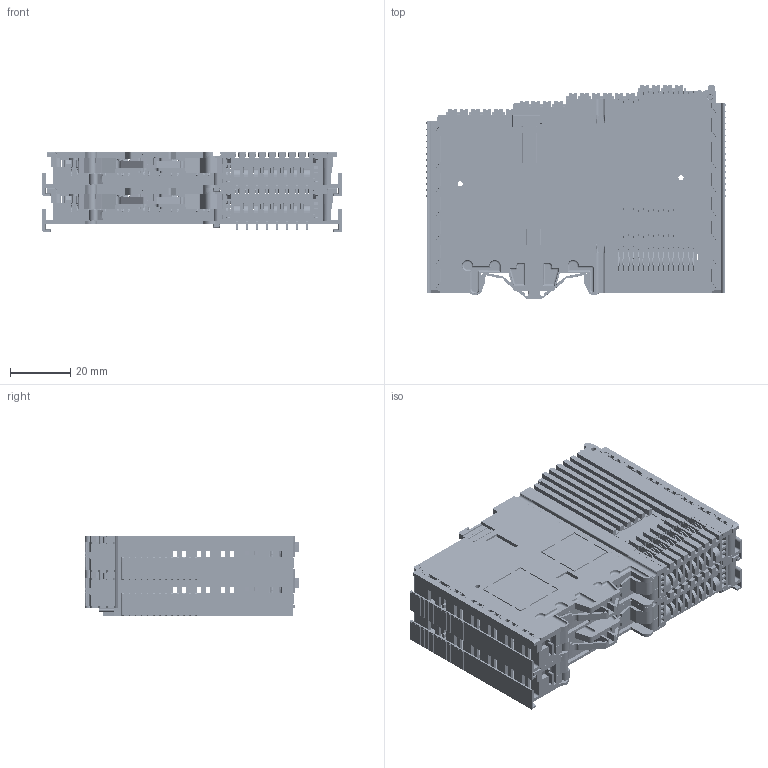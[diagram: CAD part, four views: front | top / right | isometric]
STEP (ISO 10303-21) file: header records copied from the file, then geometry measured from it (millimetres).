
FILE_DESCRIPTION((''),'2;1');
FILE_NAME('MUKUAI_2_ASM','2023-10-11T19:14:20',('wmy'),(''),'CREO PARAMETRIC BY PTC INC, 2021063','CREO PARAMETRIC BY PTC INC, 2021063','');
FILE_SCHEMA(('CONFIG_CONTROL_DESIGN','SHAPE_APPEARANCE_LAYERS_GROUPS'));
Products named in the file (37): YOUGAIBAN230227; PCB; ZUOGAIBAN230227; SM23008-R2; 0009; 0006; 00; 4P000; 0014; 2023041800; _64200001_ASM; _83320001_ASM; _100970001_ASM; _53460001_ASM; KMK-381-04_1000_ASM; _175460001_ASM; _339700001_ASM; 6P000; _211250001_ASM; _163870001_ASM; _49350001_ASM; _86430001_ASM; KMK-381-06_1000_ASM; 2P-0001; 2P-0002; 2P000; 2P000_ASM; _10002; _10003; _10004; _10005; _10001_ASM; ASM0001_ASM; IO00_ASM; MUKUAI_2_ASM
Assembly tree (80 placements, depth 5):
  MUKUAI_2_ASM
    IO00_ASM  x2
      YOUGAIBAN230227
      PCB
      ZUOGAIBAN230227
      SM23008-R2
      0009
      0006
      KMK-381-04_1000_ASM
        00  x4
        4P000
        _64200001_ASM
          0014
          2023041800
        4P000
        _83320001_ASM
          0014
          2023041800
        _100970001_ASM
          2023041800
          0014
        _53460001_ASM
          2023041800
          0014
      KMK-381-06_1000_ASM
        00  x6
        _175460001_ASM
          0014
          2023041800
        _339700001_ASM
          0014
          2023041800
        6P000
        _211250001_ASM
          2023041800
          0014
        _163870001_ASM
          2023041800
          0014
        _49350001_ASM
          2023041800
          0014
        6P000
        _86430001_ASM
          2023041800
          0014
      2P000_ASM
        2P-0001
        2P-0002
        2P000
      ASM0001_ASM
        _10001_ASM
          _10002  x8
          _10003  x8
          _10004
          _10005
Bounding box: 99.8 x 71.47 x 26.7 mm (x, y, z)
Volume: 65201.2 mm3; surface area: 149122.9 mm2
Topology: 190 solids, 190 shells, 25780 faces, 71044 edges, 45664 vertices
Faces by surface type: plane 16014, cylinder 6966, cone 1254, torus 872, bspline 498, sphere 136, extrusion 40
Entity records: 253320 total; most frequent: CARTESIAN_POINT 49393, ORIENTED_EDGE 36148, DIRECTION 34839, EDGE_CURVE 18074, VECTOR 12825, LINE 12824, VERTEX_POINT 11617, AXIS2_PLACEMENT_3D 11007
